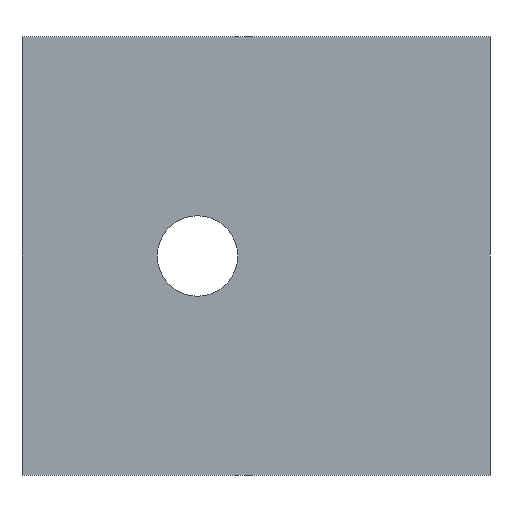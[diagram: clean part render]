
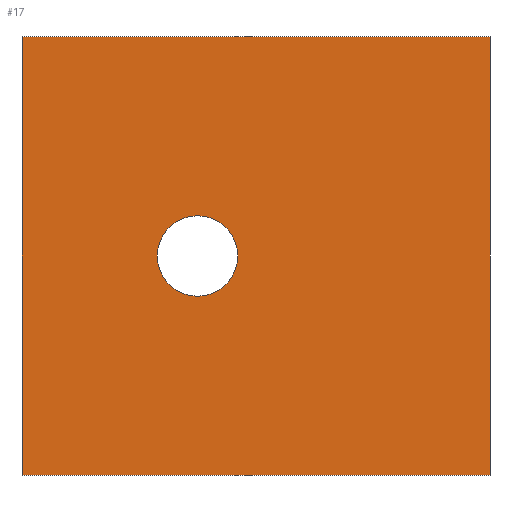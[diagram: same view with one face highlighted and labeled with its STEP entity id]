
A CAD part, left-side view. The second image highlights one B-rep face of the part: STEP entity #17.
In plain terms, the highlighted planar face has unit normal (-1, 0, 0).
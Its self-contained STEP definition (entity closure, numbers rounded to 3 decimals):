
#17 = ADVANCED_FACE('',(#18,#137),#32,.F.);
#18 = FACE_BOUND('',#19,.F.);
#19 = EDGE_LOOP('',(#20,#55,#83,#111));
#20 = ORIENTED_EDGE('',*,*,#21,.F.);
#21 = EDGE_CURVE('',#22,#24,#26,.T.);
#22 = VERTEX_POINT('',#23);
#23 = CARTESIAN_POINT('',(-12.,118.,285.));
#24 = VERTEX_POINT('',#25);
#25 = CARTESIAN_POINT('',(-12.,118.,315.));
#26 = SURFACE_CURVE('',#27,(#31,#43),.PCURVE_S1.);
#27 = LINE('',#28,#29);
#28 = CARTESIAN_POINT('',(-12.,118.,285.));
#29 = VECTOR('',#30,1.);
#30 = DIRECTION('',(0.,0.,1.));
#31 = PCURVE('',#32,#37);
#32 = PLANE('',#33);
#33 = AXIS2_PLACEMENT_3D('',#34,#35,#36);
#34 = CARTESIAN_POINT('',(-12.,118.,285.));
#35 = DIRECTION('',(1.,0.,0.));
#36 = DIRECTION('',(0.,0.,1.));
#37 = DEFINITIONAL_REPRESENTATION('',(#38),#42);
#38 = LINE('',#39,#40);
#39 = CARTESIAN_POINT('',(0.,0.));
#40 = VECTOR('',#41,1.);
#41 = DIRECTION('',(1.,0.));
#42 = ( GEOMETRIC_REPRESENTATION_CONTEXT(2) 
PARAMETRIC_REPRESENTATION_CONTEXT() REPRESENTATION_CONTEXT('2D SPACE',''
  ) );
#43 = PCURVE('',#44,#49);
#44 = PLANE('',#45);
#45 = AXIS2_PLACEMENT_3D('',#46,#47,#48);
#46 = CARTESIAN_POINT('',(-12.,118.,285.));
#47 = DIRECTION('',(0.,1.,0.));
#48 = DIRECTION('',(0.,0.,1.));
#49 = DEFINITIONAL_REPRESENTATION('',(#50),#54);
#50 = LINE('',#51,#52);
#51 = CARTESIAN_POINT('',(0.,0.));
#52 = VECTOR('',#53,1.);
#53 = DIRECTION('',(1.,0.));
#54 = ( GEOMETRIC_REPRESENTATION_CONTEXT(2) 
PARAMETRIC_REPRESENTATION_CONTEXT() REPRESENTATION_CONTEXT('2D SPACE',''
  ) );
#55 = ORIENTED_EDGE('',*,*,#56,.T.);
#56 = EDGE_CURVE('',#22,#57,#59,.T.);
#57 = VERTEX_POINT('',#58);
#58 = CARTESIAN_POINT('',(-12.,150.,285.));
#59 = SURFACE_CURVE('',#60,(#64,#71),.PCURVE_S1.);
#60 = LINE('',#61,#62);
#61 = CARTESIAN_POINT('',(-12.,118.,285.));
#62 = VECTOR('',#63,1.);
#63 = DIRECTION('',(0.,1.,0.));
#64 = PCURVE('',#32,#65);
#65 = DEFINITIONAL_REPRESENTATION('',(#66),#70);
#66 = LINE('',#67,#68);
#67 = CARTESIAN_POINT('',(0.,0.));
#68 = VECTOR('',#69,1.);
#69 = DIRECTION('',(0.,-1.));
#70 = ( GEOMETRIC_REPRESENTATION_CONTEXT(2) 
PARAMETRIC_REPRESENTATION_CONTEXT() REPRESENTATION_CONTEXT('2D SPACE',''
  ) );
#71 = PCURVE('',#72,#77);
#72 = PLANE('',#73);
#73 = AXIS2_PLACEMENT_3D('',#74,#75,#76);
#74 = CARTESIAN_POINT('',(-12.,118.,285.));
#75 = DIRECTION('',(0.,0.,1.));
#76 = DIRECTION('',(1.,0.,0.));
#77 = DEFINITIONAL_REPRESENTATION('',(#78),#82);
#78 = LINE('',#79,#80);
#79 = CARTESIAN_POINT('',(0.,0.));
#80 = VECTOR('',#81,1.);
#81 = DIRECTION('',(0.,1.));
#82 = ( GEOMETRIC_REPRESENTATION_CONTEXT(2) 
PARAMETRIC_REPRESENTATION_CONTEXT() REPRESENTATION_CONTEXT('2D SPACE',''
  ) );
#83 = ORIENTED_EDGE('',*,*,#84,.T.);
#84 = EDGE_CURVE('',#57,#85,#87,.T.);
#85 = VERTEX_POINT('',#86);
#86 = CARTESIAN_POINT('',(-12.,150.,315.));
#87 = SURFACE_CURVE('',#88,(#92,#99),.PCURVE_S1.);
#88 = LINE('',#89,#90);
#89 = CARTESIAN_POINT('',(-12.,150.,285.));
#90 = VECTOR('',#91,1.);
#91 = DIRECTION('',(0.,0.,1.));
#92 = PCURVE('',#32,#93);
#93 = DEFINITIONAL_REPRESENTATION('',(#94),#98);
#94 = LINE('',#95,#96);
#95 = CARTESIAN_POINT('',(0.,-32.));
#96 = VECTOR('',#97,1.);
#97 = DIRECTION('',(1.,0.));
#98 = ( GEOMETRIC_REPRESENTATION_CONTEXT(2) 
PARAMETRIC_REPRESENTATION_CONTEXT() REPRESENTATION_CONTEXT('2D SPACE',''
  ) );
#99 = PCURVE('',#100,#105);
#100 = PLANE('',#101);
#101 = AXIS2_PLACEMENT_3D('',#102,#103,#104);
#102 = CARTESIAN_POINT('',(-12.,150.,285.));
#103 = DIRECTION('',(0.,1.,0.));
#104 = DIRECTION('',(0.,0.,1.));
#105 = DEFINITIONAL_REPRESENTATION('',(#106),#110);
#106 = LINE('',#107,#108);
#107 = CARTESIAN_POINT('',(0.,0.));
#108 = VECTOR('',#109,1.);
#109 = DIRECTION('',(1.,0.));
#110 = ( GEOMETRIC_REPRESENTATION_CONTEXT(2) 
PARAMETRIC_REPRESENTATION_CONTEXT() REPRESENTATION_CONTEXT('2D SPACE',''
  ) );
#111 = ORIENTED_EDGE('',*,*,#112,.F.);
#112 = EDGE_CURVE('',#24,#85,#113,.T.);
#113 = SURFACE_CURVE('',#114,(#118,#125),.PCURVE_S1.);
#114 = LINE('',#115,#116);
#115 = CARTESIAN_POINT('',(-12.,118.,315.));
#116 = VECTOR('',#117,1.);
#117 = DIRECTION('',(0.,1.,0.));
#118 = PCURVE('',#32,#119);
#119 = DEFINITIONAL_REPRESENTATION('',(#120),#124);
#120 = LINE('',#121,#122);
#121 = CARTESIAN_POINT('',(30.,0.));
#122 = VECTOR('',#123,1.);
#123 = DIRECTION('',(0.,-1.));
#124 = ( GEOMETRIC_REPRESENTATION_CONTEXT(2) 
PARAMETRIC_REPRESENTATION_CONTEXT() REPRESENTATION_CONTEXT('2D SPACE',''
  ) );
#125 = PCURVE('',#126,#131);
#126 = PLANE('',#127);
#127 = AXIS2_PLACEMENT_3D('',#128,#129,#130);
#128 = CARTESIAN_POINT('',(-12.,118.,315.));
#129 = DIRECTION('',(0.,0.,1.));
#130 = DIRECTION('',(1.,0.,0.));
#131 = DEFINITIONAL_REPRESENTATION('',(#132),#136);
#132 = LINE('',#133,#134);
#133 = CARTESIAN_POINT('',(0.,0.));
#134 = VECTOR('',#135,1.);
#135 = DIRECTION('',(0.,1.));
#136 = ( GEOMETRIC_REPRESENTATION_CONTEXT(2) 
PARAMETRIC_REPRESENTATION_CONTEXT() REPRESENTATION_CONTEXT('2D SPACE',''
  ) );
#137 = FACE_BOUND('',#138,.F.);
#138 = EDGE_LOOP('',(#139));
#139 = ORIENTED_EDGE('',*,*,#140,.T.);
#140 = EDGE_CURVE('',#141,#141,#143,.T.);
#141 = VERTEX_POINT('',#142);
#142 = CARTESIAN_POINT('',(-12.,140.75,300.));
#143 = SURFACE_CURVE('',#144,(#149,#160),.PCURVE_S1.);
#144 = CIRCLE('',#145,2.75);
#145 = AXIS2_PLACEMENT_3D('',#146,#147,#148);
#146 = CARTESIAN_POINT('',(-12.,138.,300.));
#147 = DIRECTION('',(-1.,0.,0.));
#148 = DIRECTION('',(0.,1.,0.));
#149 = PCURVE('',#32,#150);
#150 = DEFINITIONAL_REPRESENTATION('',(#151),#159);
#151 = ( BOUNDED_CURVE() B_SPLINE_CURVE(2,(#152,#153,#154,#155,#156,#157
,#158),.UNSPECIFIED.,.T.,.F.) B_SPLINE_CURVE_WITH_KNOTS((1,2,2,2,2,1),(
    -2.094,0.,2.094,4.189,6.283,
8.378),.UNSPECIFIED.) CURVE() GEOMETRIC_REPRESENTATION_ITEM() 
RATIONAL_B_SPLINE_CURVE((1.,0.5,1.,0.5,1.,0.5,1.)) REPRESENTATION_ITEM(
  '') );
#152 = CARTESIAN_POINT('',(15.,-22.75));
#153 = CARTESIAN_POINT('',(10.237,-22.75));
#154 = CARTESIAN_POINT('',(12.618,-18.625));
#155 = CARTESIAN_POINT('',(15.,-14.5));
#156 = CARTESIAN_POINT('',(17.382,-18.625));
#157 = CARTESIAN_POINT('',(19.763,-22.75));
#158 = CARTESIAN_POINT('',(15.,-22.75));
#159 = ( GEOMETRIC_REPRESENTATION_CONTEXT(2) 
PARAMETRIC_REPRESENTATION_CONTEXT() REPRESENTATION_CONTEXT('2D SPACE',''
  ) );
#160 = PCURVE('',#161,#166);
#161 = CYLINDRICAL_SURFACE('',#162,2.75);
#162 = AXIS2_PLACEMENT_3D('',#163,#164,#165);
#163 = CARTESIAN_POINT('',(-13.,138.,300.));
#164 = DIRECTION('',(-1.,-0.,-0.));
#165 = DIRECTION('',(0.,1.,0.));
#166 = DEFINITIONAL_REPRESENTATION('',(#167),#171);
#167 = LINE('',#168,#169);
#168 = CARTESIAN_POINT('',(-6.283,-1.));
#169 = VECTOR('',#170,1.);
#170 = DIRECTION('',(1.,-0.));
#171 = ( GEOMETRIC_REPRESENTATION_CONTEXT(2) 
PARAMETRIC_REPRESENTATION_CONTEXT() REPRESENTATION_CONTEXT('2D SPACE',''
  ) );
